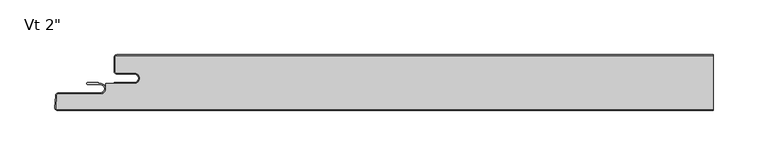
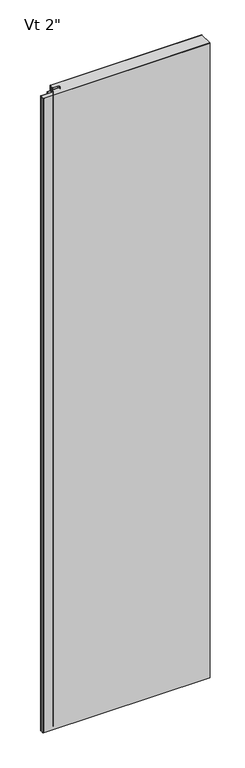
"""IFC4 building model written with IfcOpenShell, lengths in millimetres: plate geometry."""

from ifc_helpers import new_model, si_unit, point, frame_2d, origin, origin_with_axes, place, context, project, spatial, polyline, circle_curve, trimmed, segment, composite_curve, outline, extrude, source, transform, mapped, element, save


def plate_2691a210(model_context):
    return source(origin(), model_context, "Body", "SweptSolid", [
        extrude(outline(composite_curve([segment(polyline([(-269.6187498, -1.0), (272.8062498, -1.0), (272.8062498, -49.8), (-323.4656859, -49.8)]), True, "CONTINUOUS"), segment(trimmed(circle_curve(frame_2d((-323.4656859, -48.41875)), 1.38125), [point((-323.4656859, -49.8))], [point((-324.845043, -48.346461))], False, "CARTESIAN"), True, "CONTINUOUS"), segment(polyline([(-324.845043, -48.346461), (-324.2626615, -37.233961)]), True, "CONTINUOUS"), segment(trimmed(circle_curve(frame_2d((-322.8833045, -37.30625)), 1.38125), [point((-324.2626615, -37.233961))], [point((-322.8833045, -35.925))], False, "CARTESIAN"), True, "CONTINUOUS"), segment(polyline([(-322.8833045, -35.925), (-284.6999998, -35.925)]), True, "CONTINUOUS"), segment(trimmed(circle_curve(frame_2d((-284.6999998, -30.95625)), 4.96875), [point((-284.6999998, -35.925))], [point((-279.7312498, -30.95625))], True, "CARTESIAN"), True, "CONTINUOUS"), segment(polyline([(-279.7312498, -30.95625), (-279.7312498, -26.4), (-253.7437498, -26.4)]), True, "CONTINUOUS"), segment(trimmed(circle_curve(frame_2d((-253.7437498, -21.43125)), 4.96875), [point((-253.7437498, -26.4))], [point((-253.7437498, -16.4625))], True, "CARTESIAN"), True, "CONTINUOUS"), segment(polyline([(-253.7437498, -16.4625), (-269.6187498, -16.4625)]), True, "CONTINUOUS"), segment(trimmed(circle_curve(frame_2d((-269.6187498, -15.08125)), 1.38125), [point((-269.6187498, -16.4625))], [point((-270.9999998, -15.08125))], False, "CARTESIAN"), True, "CONTINUOUS"), segment(polyline([(-270.9999998, -15.08125), (-270.9999998, -2.38125)]), True, "CONTINUOUS"), segment(trimmed(circle_curve(frame_2d((-269.6187498, -2.38125)), 1.38125), [point((-270.9999998, -2.38125))], [point((-269.6187498, -1.0))], False, "CARTESIAN"), True, "CONTINUOUS")], self_intersect=False)), origin_with_axes(), (0.0, 0.0, 1.0), 2400.0),
        extrude(outline(composite_curve([segment(polyline([(-271.9999998, -25.4), (-253.7437498, -25.4)]), True, "CONTINUOUS"), segment(trimmed(circle_curve(frame_2d((-253.7437498, -21.43125)), 3.96875), [point((-253.7437498, -25.4))], [point((-253.7437498, -17.4625))], True, "CARTESIAN"), True, "CONTINUOUS"), segment(polyline([(-253.7437498, -17.4625), (-269.6187498, -17.4625)]), True, "CONTINUOUS"), segment(trimmed(circle_curve(frame_2d((-269.6187498, -15.08125)), 2.38125), [point((-269.6187498, -17.4625))], [point((-271.9999998, -15.08125))], False, "CARTESIAN"), True, "CONTINUOUS"), segment(polyline([(-271.9999998, -15.08125), (-271.9999998, -2.38125)]), True, "CONTINUOUS"), segment(trimmed(circle_curve(frame_2d((-269.6187498, -2.38125)), 2.38125), [point((-271.9999998, -2.38125))], [point((-269.6187498, 0.0))], False, "CARTESIAN"), True, "CONTINUOUS"), segment(polyline([(-269.6187498, 0.0), (272.8062498, 0.0), (272.8062498, -1.0), (-269.6187498, -1.0)]), True, "CONTINUOUS"), segment(trimmed(circle_curve(frame_2d((-269.6187498, -2.38125)), 1.38125), [point((-269.6187498, -1.0))], [point((-270.9999998, -2.38125))], True, "CARTESIAN"), True, "CONTINUOUS"), segment(polyline([(-270.9999998, -2.38125), (-270.9999998, -15.08125)]), True, "CONTINUOUS"), segment(trimmed(circle_curve(frame_2d((-269.6187498, -15.08125)), 1.38125), [point((-270.9999998, -15.08125))], [point((-269.6187498, -16.4625))], True, "CARTESIAN"), True, "CONTINUOUS"), segment(polyline([(-269.6187498, -16.4625), (-253.7437498, -16.4625)]), True, "CONTINUOUS"), segment(trimmed(circle_curve(frame_2d((-253.7437498, -21.43125)), 4.96875), [point((-253.7437498, -16.4625))], [point((-253.7437498, -26.4))], False, "CARTESIAN"), True, "CONTINUOUS"), segment(polyline([(-253.7437498, -26.4), (-271.9999998, -26.4), (-271.9999998, -25.4)]), True, "CONTINUOUS")], self_intersect=False)), origin_with_axes(), (0.0, 0.0, 1.0), 2400.0),
        extrude(outline(composite_curve([segment(polyline([(-296.0252048, -25.4), (-286.3017673, -25.4), (-286.3017673, -26.19375), (-284.7142673, -25.9875)]), True, "CONTINUOUS"), segment(trimmed(circle_curve(frame_2d((-284.7142673, -30.95625)), 4.96875), [point((-284.7142673, -25.9875))], [point((-284.7142673, -35.925))], False, "CARTESIAN"), True, "CONTINUOUS"), segment(polyline([(-284.7142673, -35.925), (-322.8975719, -35.925)]), True, "CONTINUOUS"), segment(trimmed(circle_curve(frame_2d((-322.8975719, -37.30625)), 1.38125), [point((-322.8975719, -35.925))], [point((-324.276929, -37.233961))], True, "CARTESIAN"), True, "CONTINUOUS"), segment(polyline([(-324.276929, -37.233961), (-324.8593104, -48.346461)]), True, "CONTINUOUS"), segment(trimmed(circle_curve(frame_2d((-323.4799534, -48.41875)), 1.38125), [point((-324.8593104, -48.346461))], [point((-323.4799534, -49.8))], True, "CARTESIAN"), True, "CONTINUOUS"), segment(polyline([(-323.4799534, -49.8), (272.8062498, -49.8), (272.8062498, -50.8), (-323.4799534, -50.8)]), True, "CONTINUOUS"), segment(trimmed(circle_curve(frame_2d((-323.4799534, -48.41875)), 2.38125), [point((-323.4799534, -50.8))], [point((-325.8579399, -48.294125))], False, "CARTESIAN"), True, "CONTINUOUS"), segment(polyline([(-325.8579399, -48.294125), (-325.2755585, -37.181625)]), True, "CONTINUOUS"), segment(trimmed(circle_curve(frame_2d((-322.8975719, -37.30625)), 2.38125), [point((-325.2755585, -37.181625))], [point((-322.8975719, -34.925))], False, "CARTESIAN"), True, "CONTINUOUS"), segment(polyline([(-322.8975719, -34.925), (-284.7142673, -34.925)]), True, "CONTINUOUS"), segment(trimmed(circle_curve(frame_2d((-284.7142673, -30.95625)), 3.96875), [point((-284.7142673, -34.925))], [point((-284.7142673, -26.9875))], True, "CARTESIAN"), True, "CONTINUOUS"), segment(polyline([(-284.7142673, -26.9875), (-296.0252048, -26.9875)]), True, "CONTINUOUS"), segment(trimmed(circle_curve(frame_2d((-296.0252048, -26.19375)), 0.79375), [point((-296.0252048, -26.9875))], [point((-296.0252048, -25.4))], False, "CARTESIAN"), True, "CONTINUOUS")], self_intersect=False)), origin_with_axes(), (0.0, 0.0, 1.0), 2400.0),
    ])


if __name__ == "__main__":
    model = new_model("IFC4")
    model_context = context("Model", 3, world=origin())
    ifc_project = project(units=[si_unit("LENGTHUNIT", "METRE", prefix="MILLI")], contexts=[model_context])
    site = spatial("IfcSite", under=ifc_project)
    building = spatial("IfcBuilding", under=site)
    placement = place(None, origin())
    plate_shape = plate_2691a210(model_context)
    element("IfcPlate", 1, ObjectType="KIP-36-DWHR-R19-CP-Vt-F : Vt 2\"", at=placement, inside=building, context=model_context, shape_type="MappedRepresentation", body=[
        mapped(plate_shape, transform((0.0, 0.0, 0.0), x_axis=(1.0, 0.0, 0.0), y_axis=(0.0, 1.0, 0.0), z_axis=(0.0, 0.0, 1.0))),
    ])
    save(model, "model.ifc")
